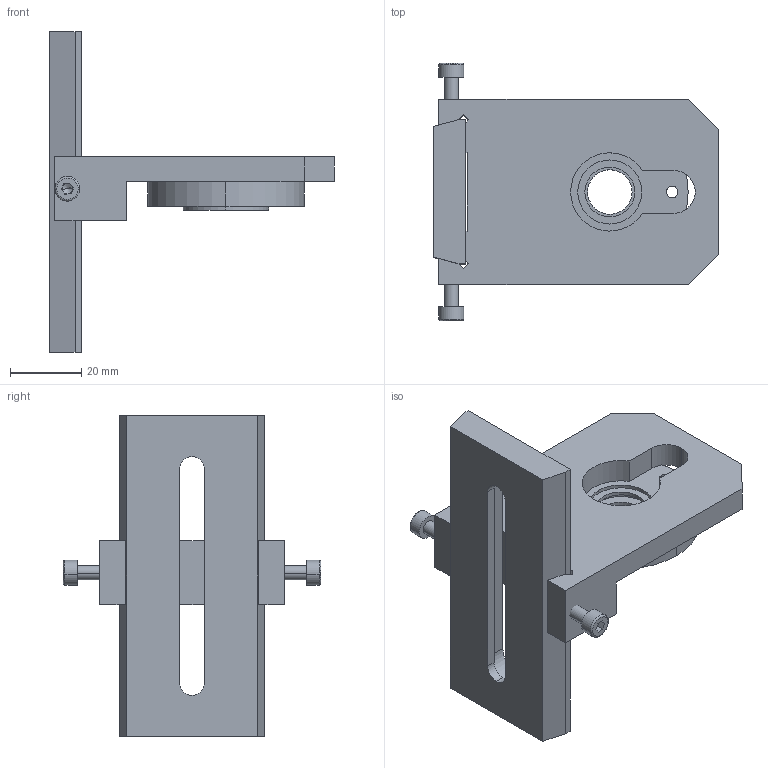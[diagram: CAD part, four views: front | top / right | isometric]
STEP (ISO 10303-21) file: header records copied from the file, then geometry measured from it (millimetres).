
FILE_DESCRIPTION (( 'STEP AP203' ), '1' );
FILE_NAME ('7MML620棠俶芵噩殤.STEP', '2019-12-04T05:19:21', ( '' ), ( '' ), 'SwSTEP 2.0', 'SolidWorks 2018', '' );
FILE_SCHEMA (( 'CONFIG_CONTROL_DESIGN' ));
Length unit declared in the file: millimetre
Products named in the file (1): 7MML620棠俶芵噩殤
Bounding box: 80 x 72.4 x 90 mm (x, y, z)
Volume: 64207.2 mm3; surface area: 27555.4 mm2
Topology: 7 solids, 7 shells, 158 faces, 379 edges, 234 vertices
Faces by surface type: plane 79, cylinder 55, cone 20, torus 4
Entity records: 4566 total; most frequent: DIRECTION 811, CARTESIAN_POINT 768, ORIENTED_EDGE 726, EDGE_CURVE 363, AXIS2_PLACEMENT_3D 293, VERTEX_POINT 234, LINE 225, VECTOR 225
